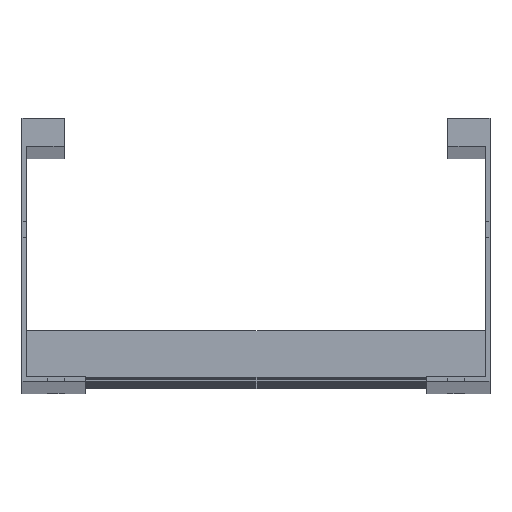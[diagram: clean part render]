
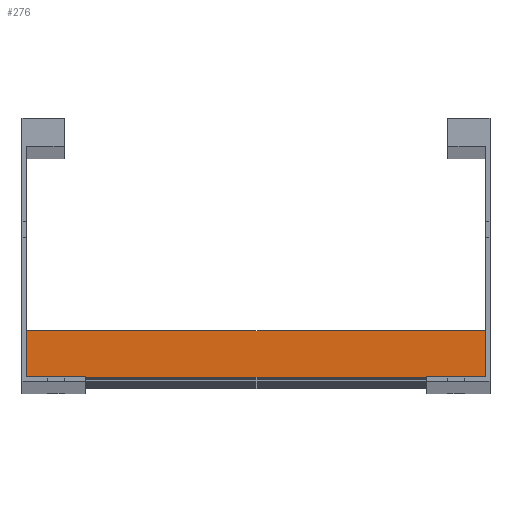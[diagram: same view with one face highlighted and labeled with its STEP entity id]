
A CAD part, top view. The second image highlights one B-rep face of the part: STEP entity #276.
In plain terms, the highlighted planar face has unit normal (0, 0, 1).
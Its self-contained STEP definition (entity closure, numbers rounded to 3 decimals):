
#81 = CARTESIAN_POINT ( 'NONE',  ( -98., 0., 20.25 ) ) ;
#109 = EDGE_CURVE ( 'NONE', #730, #865, #218, .T. ) ;
#161 = PLANE ( 'NONE',  #1435 ) ;
#218 = LINE ( 'NONE', #1173, #1544 ) ;
#228 = VERTEX_POINT ( 'NONE', #1659 ) ;
#276 = ADVANCED_FACE ( 'NONE', ( #1648 ), #161, .F. ) ;
#278 = CARTESIAN_POINT ( 'NONE',  ( 98., 0., 20.25 ) ) ;
#303 = CARTESIAN_POINT ( 'NONE',  ( 98., 20., 20.25 ) ) ;
#324 = CARTESIAN_POINT ( 'NONE',  ( 98., 0., 20.25 ) ) ;
#354 = DIRECTION ( 'NONE',  ( -1., 0., 0. ) ) ;
#397 = LINE ( 'NONE', #1597, #937 ) ;
#706 = DIRECTION ( 'NONE',  ( 0., 0., -1. ) ) ;
#730 = VERTEX_POINT ( 'NONE', #1017 ) ;
#765 = DIRECTION ( 'NONE',  ( 0., -1., 0. ) ) ;
#833 = EDGE_LOOP ( 'NONE', ( #1022, #1367, #1714, #1372 ) ) ;
#865 = VERTEX_POINT ( 'NONE', #81 ) ;
#868 = VERTEX_POINT ( 'NONE', #324 ) ;
#870 = DIRECTION ( 'NONE',  ( 0., 1., 0. ) ) ;
#928 = EDGE_CURVE ( 'NONE', #228, #868, #1522, .T. ) ;
#936 = LINE ( 'NONE', #278, #967 ) ;
#937 = VECTOR ( 'NONE', #354, 1000. ) ;
#967 = VECTOR ( 'NONE', #1216, 1000. ) ;
#1017 = CARTESIAN_POINT ( 'NONE',  ( -98., 20., 20.25 ) ) ;
#1022 = ORIENTED_EDGE ( 'NONE', *, *, #109, .T. ) ;
#1059 = CARTESIAN_POINT ( 'NONE',  ( 98., 20., 20.25 ) ) ;
#1173 = CARTESIAN_POINT ( 'NONE',  ( -98., 20., 20.25 ) ) ;
#1216 = DIRECTION ( 'NONE',  ( -1., 0., 0. ) ) ;
#1326 = VECTOR ( 'NONE', #1448, 1000. ) ;
#1349 = EDGE_CURVE ( 'NONE', #228, #730, #397, .T. ) ;
#1367 = ORIENTED_EDGE ( 'NONE', *, *, #1461, .F. ) ;
#1372 = ORIENTED_EDGE ( 'NONE', *, *, #1349, .T. ) ;
#1435 = AXIS2_PLACEMENT_3D ( 'NONE', #303, #706, #870 ) ;
#1448 = DIRECTION ( 'NONE',  ( 0., -1., 0. ) ) ;
#1461 = EDGE_CURVE ( 'NONE', #868, #865, #936, .T. ) ;
#1522 = LINE ( 'NONE', #1059, #1326 ) ;
#1544 = VECTOR ( 'NONE', #765, 1000. ) ;
#1597 = CARTESIAN_POINT ( 'NONE',  ( 98., 20., 20.25 ) ) ;
#1648 = FACE_OUTER_BOUND ( 'NONE', #833, .T. ) ;
#1659 = CARTESIAN_POINT ( 'NONE',  ( 98., 20., 20.25 ) ) ;
#1714 = ORIENTED_EDGE ( 'NONE', *, *, #928, .F. ) ;
